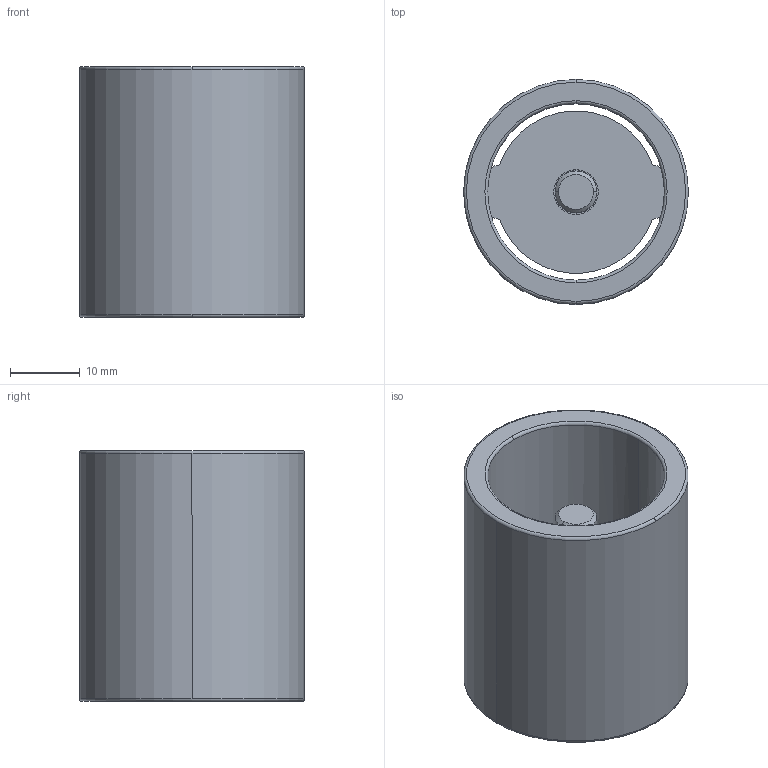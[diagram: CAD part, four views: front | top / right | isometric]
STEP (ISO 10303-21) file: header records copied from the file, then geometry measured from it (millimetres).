
FILE_DESCRIPTION((''),'2;1');
FILE_NAME('C11_025_036.stp','2009-01-12T09:15:41',(''),(''),'Mechanical Desktop 2009','Mechanical Desktop 2009',', , ');
FILE_SCHEMA(('CONFIG_CONTROL_DESIGN'));
Length unit declared in the file: millimetre
Products named in the file (2): Product; blmdl1
Assembly tree (1 placements, depth 2):
  Product
    blmdl1
Bounding box: 32.25 x 32.25 x 36 mm (x, y, z)
Volume: 12800.4 mm3; surface area: 8896 mm2
Topology: 3 solids, 3 shells, 44 faces, 110 edges, 74 vertices
Faces by surface type: cylinder 16, plane 16, torus 10, cone 2
Entity records: 1507 total; most frequent: CARTESIAN_POINT 274, DIRECTION 266, ORIENTED_EDGE 220, AXIS2_PLACEMENT_3D 114, EDGE_CURVE 110, VERTEX_POINT 74, CIRCLE 68, EDGE_LOOP 50
